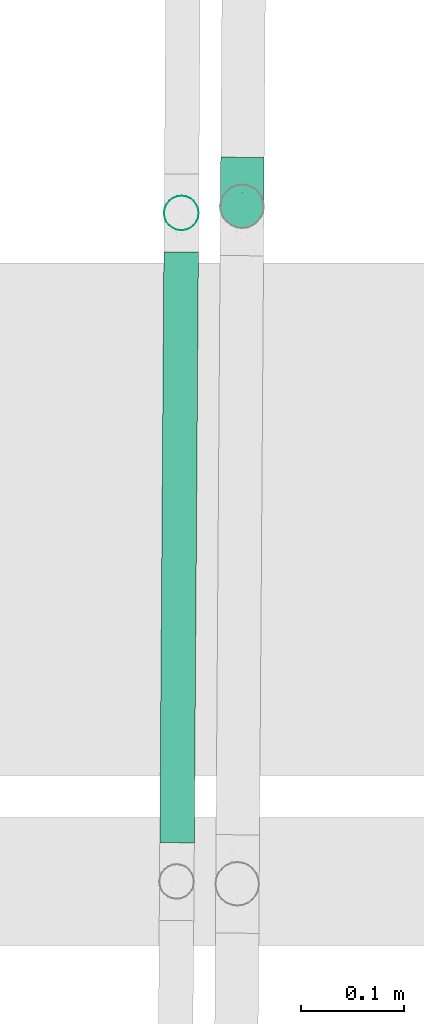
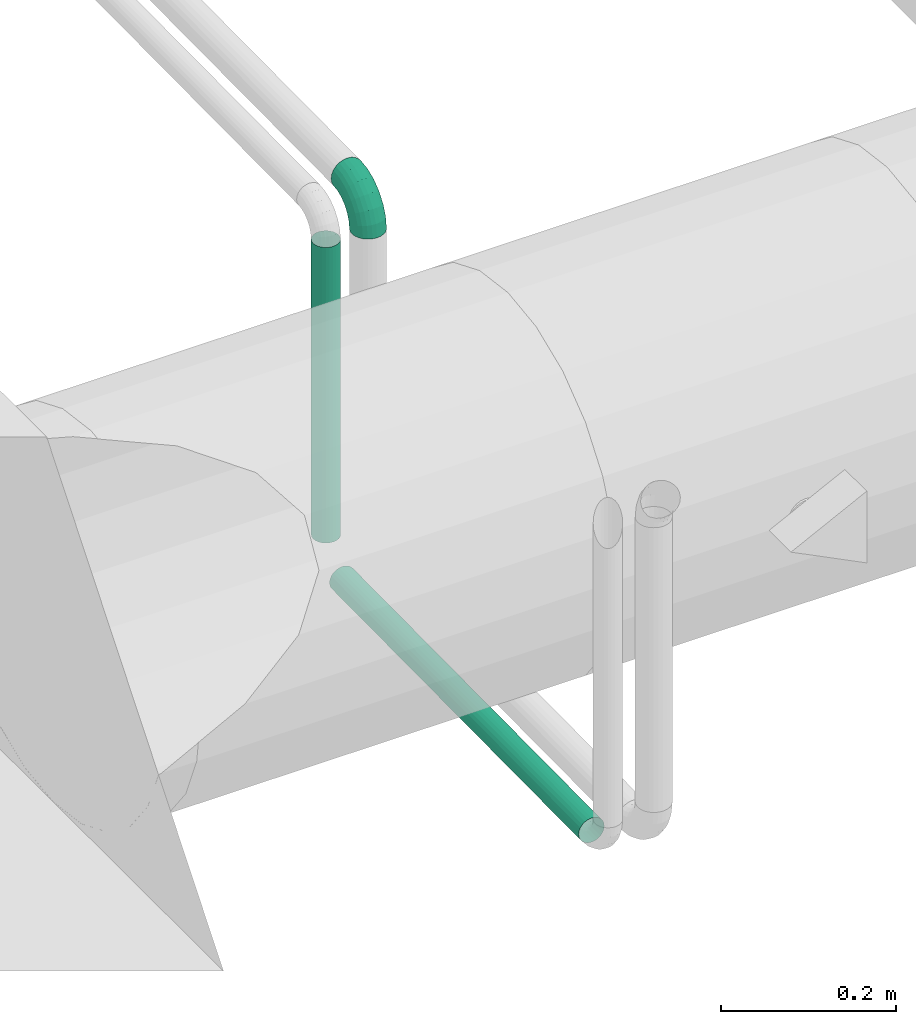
# One storey, part 315 of 374: 3 flow segments.
"""IFC2X3 building model written with IfcOpenShell, lengths in metres."""

from ifc_helpers import new_model, si_unit, direction, origin, place, context, subcontext, project, spatial, open_shell, surface_model, source, transform, mapped, element, save


model = new_model("IFC2X3")

# Units and contexts
model_context = context("Model", 3, precision=1e-05, world=origin(), true_north=direction((-0.4480736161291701, 0.8939966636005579)))
body_context = subcontext(model_context, "Body", "Model", "MODEL_VIEW")
ifc_project = project(units=[si_unit("LENGTHUNIT", "METRE"), si_unit("AREAUNIT", "SQUARE_METRE"), si_unit("VOLUMEUNIT", "CUBIC_METRE"), si_unit("PLANEANGLEUNIT", "RADIAN"), si_unit("THERMODYNAMICTEMPERATUREUNIT", "KELVIN"), si_unit("MASSUNIT", "GRAM", prefix="KILO"), si_unit("TIMEUNIT", "SECOND")], contexts=[model_context])

# Site, building, storey
site_placement = place(None, origin())
site = spatial("IfcSite", under=ifc_project, at=site_placement, Name="Site 1", CompositionType="ELEMENT")
building_placement = place(site_placement, origin())
building = spatial("IfcBuilding", under=site, at=building_placement, Name="Undefined", CompositionType="ELEMENT")
storey_placement = place(building_placement, origin())
storey = spatial("IfcBuildingStorey", under=building, at=storey_placement, Name="Rez de chauss\x8ee", CompositionType="ELEMENT", Elevation=0.0)

# Flow segments
shared_shape_1 = source(origin(), body_context, "Body", "SurfaceModel", [
    surface_model("IfcFaceBasedSurfaceModel", [(0.0, 0.004398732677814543, 0.0), (0.0, 0.0, 0.0), (0.4121860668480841, 3.552713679e-15, 0.0), (0.4121860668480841, 0.0043987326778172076, 0.0), (0.0, -0.004248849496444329, -0.00113847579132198), (0.4121860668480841, -0.0042488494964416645, -0.0011384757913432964), (0.0, -0.008058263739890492, -0.003337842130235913), (0.4121860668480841, -0.008058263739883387, -0.0033378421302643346), (0.0, -0.01116863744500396, -0.0064482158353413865), (0.4121860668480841, -0.011168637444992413, -0.006448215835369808), (0.0, -0.013368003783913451, -0.010257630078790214), (0.4121860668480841, -0.013368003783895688, -0.010257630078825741), (0.0, -0.014506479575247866, -0.014506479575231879), (0.4121860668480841, -0.014506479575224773, -0.014506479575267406), (0.0, -0.01450647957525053, -0.01890521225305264), (0.4121860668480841, -0.014506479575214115, -0.018905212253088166), (0.0, -0.013368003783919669, -0.023154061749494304), (0.4121860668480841, -0.013368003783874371, -0.02315406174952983), (0.0, -0.011168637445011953, -0.02696347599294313), (0.4121860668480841, -0.011168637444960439, -0.026963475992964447), (0.0, -0.008058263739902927, -0.03007384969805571), (0.4121860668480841, -0.00805826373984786, -0.03007384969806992), (0.0, -0.004248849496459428, -0.03227321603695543), (0.4121860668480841, -0.004248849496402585, -0.03227321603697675), (0.0, -1.5099033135e-14, -0.03341169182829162), (0.4121860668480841, 4.6185277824e-14, -0.033411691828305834), (0.0, 0.00439873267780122, -0.03341169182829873), (0.4121860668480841, 0.00439873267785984, -0.033411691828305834), (0.0, 0.008647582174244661, -0.03227321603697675), (0.4121860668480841, 0.008647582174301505, -0.03227321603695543), (0.0, 0.012456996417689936, -0.030073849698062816), (0.4121860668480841, 0.012456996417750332, -0.0300738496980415), (0.0, 0.01556737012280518, -0.026963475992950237), (0.4121860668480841, 0.015567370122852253, -0.02696347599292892), (0.0, 0.017766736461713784, -0.023154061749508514), (0.4121860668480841, 0.017766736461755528, -0.023154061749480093), (0.0, 0.018905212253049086, -0.01890521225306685), (0.4121860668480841, 0.018905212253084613, -0.018905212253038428), (0.0, 0.018905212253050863, -0.01450647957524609), (0.4121860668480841, 0.018905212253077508, -0.014506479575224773), (0.0, 0.01776673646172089, -0.01025763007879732), (0.4121860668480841, 0.017766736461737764, -0.010257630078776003), (0.0, 0.015567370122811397, -0.006448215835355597), (0.4121860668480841, 0.015567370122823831, -0.006448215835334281), (0.0, 0.012456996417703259, -0.0033378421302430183), (0.4121860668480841, 0.012456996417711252, -0.003337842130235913), (0.0, 0.00864758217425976, -0.0011384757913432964), (0.4121860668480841, 0.008647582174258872, -0.0011384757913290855)], [open_shell([[[0, 1, 2, 3]], [[1, 4, 5, 2]], [[4, 6, 7, 5]], [[6, 8, 9, 7]], [[8, 10, 11, 9]], [[10, 12, 13, 11]], [[12, 14, 15, 13]], [[14, 16, 17, 15]], [[16, 18, 19, 17]], [[18, 20, 21, 19]], [[20, 22, 23, 21]], [[22, 24, 25, 23]], [[24, 26, 27, 25]], [[26, 28, 29, 27]], [[28, 30, 31, 29]], [[30, 32, 33, 31]], [[32, 34, 35, 33]], [[34, 36, 37, 35]], [[36, 38, 39, 37]], [[38, 40, 41, 39]], [[40, 42, 43, 41]], [[42, 44, 45, 43]], [[44, 46, 47, 45]], [[46, 0, 3, 47]]])]),
])
flow_segment_1_placement = place(storey_placement, origin())
element("IfcFlowSegment", 1, at=flow_segment_1_placement, inside=storey, Name="Tube acier d'après DIN 2448", ObjectType="Tube acier d'après DIN 2448", context=body_context, shape_type="MappedRepresentation", body=[
    mapped(shared_shape_1, transform((52.88358082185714, 18.00864074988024, 3.9671404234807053), x_axis=(0.0, 0.0, -1.0), y_axis=(0.1374445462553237, 0.9905094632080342, 0.0), z_axis=(0.9905094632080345, -0.13744454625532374, 0.0))),
])
shared_shape_2 = source(origin(), body_context, "Body", "SurfaceModel", [
    surface_model("IfcFaceBasedSurfaceModel", [(0.0, 0.004398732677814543, 0.0), (0.0, 0.0, 0.0), (0.5762514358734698, 4.4408921e-16, 0.0), (0.5762514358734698, 0.004398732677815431, 0.0), (0.0, -0.004248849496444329, -0.00113847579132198), (0.5762514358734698, -0.004248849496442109, -0.001138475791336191), (0.0, -0.008058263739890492, -0.003337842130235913), (0.5762514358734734, -0.00805826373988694, -0.0033378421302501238), (0.0, -0.01116863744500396, -0.0064482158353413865), (0.5762514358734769, -0.011168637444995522, -0.006448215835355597), (0.0, -0.013368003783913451, -0.010257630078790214), (0.5762514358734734, -0.013368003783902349, -0.010257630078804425), (0.0, -0.014506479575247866, -0.014506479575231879), (0.5762514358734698, -0.0145064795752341, -0.01450647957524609), (0.0, -0.01450647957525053, -0.01890521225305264), (0.5762514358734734, -0.014506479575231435, -0.018905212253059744), (0.0, -0.013368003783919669, -0.023154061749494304), (0.5762514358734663, -0.013368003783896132, -0.02315406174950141), (0.0, -0.011168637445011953, -0.02696347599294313), (0.5762514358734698, -0.011168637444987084, -0.026963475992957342), (0.0, -0.008058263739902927, -0.03007384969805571), (0.5762514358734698, -0.008058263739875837, -0.03007384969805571), (0.0, -0.004248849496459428, -0.03227321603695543), (0.5762514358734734, -0.004248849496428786, -0.03227321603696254), (0.0, -1.5099033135e-14, -0.03341169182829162), (0.5762514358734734, 1.5099033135e-14, -0.03341169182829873), (0.0, 0.00439873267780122, -0.03341169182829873), (0.5762514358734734, 0.004398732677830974, -0.03341169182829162), (0.0, 0.008647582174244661, -0.03227321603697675), (0.5762514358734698, 0.008647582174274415, -0.03227321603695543), (0.0, 0.012456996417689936, -0.030073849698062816), (0.5762514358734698, 0.012456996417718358, -0.03007384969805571), (0.0, 0.01556737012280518, -0.026963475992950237), (0.5762514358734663, 0.015567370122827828, -0.02696347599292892), (0.0, 0.017766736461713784, -0.023154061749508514), (0.5762514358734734, 0.017766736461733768, -0.023154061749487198), (0.0, 0.018905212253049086, -0.01890521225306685), (0.5762514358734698, 0.018905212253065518, -0.01890521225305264), (0.0, 0.018905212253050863, -0.01450647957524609), (0.5762514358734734, 0.018905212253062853, -0.014506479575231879), (0.0, 0.01776673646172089, -0.01025763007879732), (0.5762514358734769, 0.01776673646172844, -0.010257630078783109), (0.0, 0.015567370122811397, -0.006448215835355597), (0.5762514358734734, 0.015567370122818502, -0.006448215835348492), (0.0, 0.012456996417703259, -0.0033378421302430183), (0.5762514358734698, 0.012456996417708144, -0.003337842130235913), (0.0, 0.00864758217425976, -0.0011384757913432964), (0.5762514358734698, 0.008647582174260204, -0.0011384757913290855)], [open_shell([[[0, 1, 2, 3]], [[1, 4, 5, 2]], [[4, 6, 7, 5]], [[6, 8, 9, 7]], [[8, 10, 11, 9]], [[10, 12, 13, 11]], [[12, 14, 15, 13]], [[14, 16, 17, 15]], [[16, 18, 19, 17]], [[18, 20, 21, 19]], [[20, 22, 23, 21]], [[22, 24, 25, 23]], [[24, 26, 27, 25]], [[26, 28, 29, 27]], [[28, 30, 31, 29]], [[30, 32, 33, 31]], [[32, 34, 35, 33]], [[34, 36, 37, 35]], [[36, 38, 39, 37]], [[38, 40, 41, 39]], [[40, 42, 43, 41]], [[42, 44, 45, 43]], [[44, 46, 47, 45]], [[46, 0, 3, 47]]])]),
])
flow_segment_2_placement = place(storey_placement, origin())
element("IfcFlowSegment", 2, at=flow_segment_2_placement, inside=storey, Name="Tube acier d'après DIN 2448", ObjectType="Tube acier d'après DIN 2448", context=body_context, shape_type="MappedRepresentation", body=[
    mapped(shared_shape_2, transform((52.85079507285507, 17.97522992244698, 3.512593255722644), x_axis=(-0.00698126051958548, -0.9999756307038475, 0.0), y_axis=(-0.13052301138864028, 0.000911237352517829, 0.9914448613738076), z_axis=(-0.991420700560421, 0.0069215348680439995, -0.13052619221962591))),
])
shared_shape_3 = source(origin(), body_context, "Body", "SurfaceModel", [
    surface_model("IfcFaceBasedSurfaceModel", [(0.01806482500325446, 7.105427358e-15, 0.0), (0.017970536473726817, 0.005533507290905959, 0.0), (9.428852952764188e-05, 0.005533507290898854, 0.0), (0.0, 0.0, 0.0), (-0.017172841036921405, 0.00613233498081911, -0.004587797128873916), (-0.01744928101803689, 0.0006051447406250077, -0.004636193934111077), (-0.03265412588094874, 0.007289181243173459, -0.013450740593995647), (-0.0330938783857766, 0.0017741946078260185, -0.013592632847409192), (-0.045294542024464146, 0.008925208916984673, -0.02598483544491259), (-0.045867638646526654, 0.0034274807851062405, -0.02625895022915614), (-0.054232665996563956, 0.010928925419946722, -0.041335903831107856), (-0.05490005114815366, 0.005452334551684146, -0.04177195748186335), (-0.05885937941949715, 0.013163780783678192, -0.05845779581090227), (-0.059575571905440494, 0.007710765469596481, -0.05907446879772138), (0.01769409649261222, 0.010875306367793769, -0.0014203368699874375), (0.00037072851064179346, 0.010875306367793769, -0.0014203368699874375), (-0.016362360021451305, 0.011455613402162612, -0.005866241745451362), (-0.03136483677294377, 0.012576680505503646, -0.014455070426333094), (-0.04361430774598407, 0.014162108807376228, -0.026601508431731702), (-0.05227599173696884, 0.016103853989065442, -0.0414777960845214), (-0.05675960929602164, 0.018269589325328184, -0.05807013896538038), (0.017254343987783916, 0.015661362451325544, -0.0041642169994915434), (0.0008104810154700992, 0.015661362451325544, -0.004164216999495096), (-0.01507307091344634, 0.016212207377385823, -0.008384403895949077), (-0.029313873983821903, 0.01727635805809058, -0.016537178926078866), (-0.04094144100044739, 0.01878129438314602, -0.02806694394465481), (-0.049163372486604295, 0.02062445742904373, -0.042187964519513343), (-0.05341935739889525, 0.02268023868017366, -0.05793791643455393), (0.016681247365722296, 0.01956551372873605, -0.008044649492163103), (0.001383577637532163, 0.01956551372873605, -0.008044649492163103), (-0.01339283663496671, 0.020077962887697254, -0.011970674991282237), (-0.026641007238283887, 0.021067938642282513, -0.01955517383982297), (-0.03745809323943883, 0.02246797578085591, -0.03028127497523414), (-0.04510692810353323, 0.0241826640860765, -0.04341801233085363), (-0.04906625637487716, 0.026095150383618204, -0.05807013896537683), (0.016013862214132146, 0.022321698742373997, -0.012797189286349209), (0.0020509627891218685, 0.022321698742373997, -0.012797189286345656), (-0.011436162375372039, 0.02278943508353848, -0.016380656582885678), (-0.023528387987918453, 0.02369303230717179, -0.023303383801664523), (-0.03340164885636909, 0.024970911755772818, -0.03309359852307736), (-0.040383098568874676, 0.026535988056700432, -0.04508411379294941), (-0.04399696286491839, 0.028281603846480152, -0.05845779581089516), (0.015297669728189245, 0.023742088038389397, -0.018097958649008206), (0.00276715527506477, 0.023742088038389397, -0.018097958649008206), (-0.009336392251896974, 0.024161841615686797, -0.021313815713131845), (-0.02018813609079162, 0.02497274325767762, -0.0275263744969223), (-0.029048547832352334, 0.02611953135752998, -0.03631225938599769), (-0.03531380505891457, 0.027524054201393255, -0.04707272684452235), (-0.0385569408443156, 0.02909059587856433, -0.05907446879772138), (0.014581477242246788, 0.023729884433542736, -0.02358571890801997), (0.0034833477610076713, 0.023729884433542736, -0.02358571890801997), (-0.007236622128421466, 0.024101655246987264, -0.026433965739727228), (-0.016847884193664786, 0.02481986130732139, -0.03193635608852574), (-0.02469544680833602, 0.02583555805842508, -0.03971791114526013), (-0.0302445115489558, 0.027079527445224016, -0.04924833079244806), (-0.03311691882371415, 0.02846699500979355, -0.059878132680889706), (0.013914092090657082, 0.02228591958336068, -0.02888648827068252), (0.004150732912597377, 0.022285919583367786, -0.028886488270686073), (-0.005279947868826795, 0.022612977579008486, -0.031392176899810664), (-0.013735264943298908, 0.023244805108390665, -0.03623279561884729), (-0.020639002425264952, 0.02413834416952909, -0.04307846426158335), (-0.025520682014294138, 0.025232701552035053, -0.051462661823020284), (-0.028047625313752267, 0.026453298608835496, -0.060814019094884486), (0.013340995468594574, 0.01950859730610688, -0.03363902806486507), (0.0047238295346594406, 0.01950859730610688, -0.033639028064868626), (-0.0035997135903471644, 0.019797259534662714, -0.035850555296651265), (-0.011062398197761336, 0.0203549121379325, -0.04012289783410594), (-0.017155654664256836, 0.021143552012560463, -0.04616490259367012), (-0.02146423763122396, 0.022109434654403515, -0.05356481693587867), (-0.02369452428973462, 0.023186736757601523, -0.06181834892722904), (0.012901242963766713, 0.015587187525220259, -0.037519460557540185), (0.005163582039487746, 0.015587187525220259, -0.03751946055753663), (-0.0023104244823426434, 0.015846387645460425, -0.03950526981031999), (-0.009011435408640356, 0.016347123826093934, -0.043341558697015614), (-0.01448278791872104, 0.017055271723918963, -0.048766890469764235), (-0.018351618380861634, 0.017922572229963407, -0.05541153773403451), (-0.02035427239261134, 0.018889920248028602, -0.06282267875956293), (0.012624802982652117, 0.010788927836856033, -0.040263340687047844), (0.005440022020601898, 0.010788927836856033, -0.0402633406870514), (-0.0014999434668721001, 0.011029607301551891, -0.04210725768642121), (-0.007722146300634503, 0.01149456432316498, -0.045669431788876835), (-0.012802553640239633, 0.012152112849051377, -0.05070710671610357), (-0.0163949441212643, 0.012957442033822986, -0.056876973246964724), (-0.018254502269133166, 0.013855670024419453, -0.06375856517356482), (0.012530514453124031, 0.005440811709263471, -0.041683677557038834), (0.005534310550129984, 0.0054408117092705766, -0.041683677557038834), (-0.0012235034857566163, 0.005675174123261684, -0.04347919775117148), (-0.007282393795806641, 0.006127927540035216, -0.046947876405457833), (-0.012229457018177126, 0.0067682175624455, -0.05185332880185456), (-0.015727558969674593, 0.007552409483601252, -0.05786125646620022), (-0.01753830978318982, 0.008427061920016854, -0.0645622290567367), (0.012624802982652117, -9.269558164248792e-05, -0.04168367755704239), (0.005440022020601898, -9.269558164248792e-05, -0.04168367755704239), (-0.0014999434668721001, 0.00014798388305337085, -0.0435275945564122), (-0.007722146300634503, 0.0006129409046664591, -0.047089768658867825), (-0.012802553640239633, 0.001270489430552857, -0.05212744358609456), (-0.0163949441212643, 0.002075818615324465, -0.058297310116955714), (-0.018254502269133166, 0.0029740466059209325, -0.06517890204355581), (0.012901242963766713, -0.005434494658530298, -0.0402633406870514), (0.005163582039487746, -0.005434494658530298, -0.040263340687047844), (-0.0023104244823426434, -0.005175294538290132, -0.0422491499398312), (-0.009011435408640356, -0.004674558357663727, -0.046085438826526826), (-0.01448278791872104, -0.0039664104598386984, -0.051510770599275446), (-0.018351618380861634, -0.0030991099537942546, -0.05815541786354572), (-0.02035427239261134, -0.0021317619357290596, -0.06556655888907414), (0.013340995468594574, -0.010220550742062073, -0.03751946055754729), (0.0047238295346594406, -0.010220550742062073, -0.03751946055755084), (-0.0035997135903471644, -0.009931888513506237, -0.03973098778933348), (-0.011062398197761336, -0.009374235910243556, -0.04400333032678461), (-0.017155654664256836, -0.00858559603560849, -0.05004533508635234), (-0.02146423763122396, -0.007619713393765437, -0.057445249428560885), (-0.02369452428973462, -0.006542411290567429, -0.06569878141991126), (0.013914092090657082, -0.01412470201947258, -0.03363902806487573), (0.004150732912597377, -0.014124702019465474, -0.033639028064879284), (-0.005279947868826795, -0.013797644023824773, -0.036144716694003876), (-0.013735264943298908, -0.013165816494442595, -0.0409853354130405), (-0.020639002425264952, -0.012272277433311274, -0.04783100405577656), (-0.025520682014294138, -0.011177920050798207, -0.05621520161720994), (-0.028047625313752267, -0.009957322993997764, -0.0655665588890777), (0.014581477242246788, -0.01688088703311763, -0.028886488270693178), (0.0034833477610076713, -0.01688088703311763, -0.028886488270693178), (-0.007236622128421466, -0.016509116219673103, -0.031734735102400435), (-0.016847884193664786, -0.015790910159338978, -0.03723712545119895), (-0.02469544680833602, -0.014775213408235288, -0.04501868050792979), (-0.0302445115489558, -0.01353124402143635, -0.054549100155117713), (-0.03311691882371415, -0.012143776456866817, -0.06517890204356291), (0.015297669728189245, -0.01830127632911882, -0.02358571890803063), (0.00276715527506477, -0.01830127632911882, -0.02358571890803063), (-0.009336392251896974, -0.01788152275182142, -0.026801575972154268), (-0.02018813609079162, -0.017070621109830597, -0.033014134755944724), (-0.029048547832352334, -0.01592383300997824, -0.04180001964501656), (-0.03531380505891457, -0.014519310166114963, -0.05256048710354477), (-0.0385569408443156, -0.012952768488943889, -0.06456222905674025), (0.016013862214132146, -0.01828907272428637, -0.018097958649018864), (0.0020509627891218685, -0.01828907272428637, -0.018097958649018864), (-0.011436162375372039, -0.01782133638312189, -0.021681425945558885), (-0.023528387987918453, -0.016917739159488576, -0.02860415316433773), (-0.03340164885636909, -0.01563985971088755, -0.038394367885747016), (-0.040383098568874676, -0.014074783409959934, -0.05038488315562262), (-0.04399696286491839, -0.012329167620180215, -0.06375856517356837), (0.016681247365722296, -0.01684510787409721, -0.012797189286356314), (0.001383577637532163, -0.01684510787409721, -0.012797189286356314), (-0.01339283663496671, -0.016332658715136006, -0.01672321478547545), (-0.026641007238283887, -0.015342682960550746, -0.02430771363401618), (-0.03745809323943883, -0.01394264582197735, -0.03503381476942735), (-0.04510692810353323, -0.01222795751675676, -0.04817055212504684), (-0.04906625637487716, -0.010315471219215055, -0.06282267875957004), (0.017254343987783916, -0.014067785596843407, -0.008044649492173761), (0.0008104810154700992, -0.014067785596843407, -0.008044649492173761), (-0.01507307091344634, -0.013516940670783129, -0.012264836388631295), (-0.029313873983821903, -0.012452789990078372, -0.020417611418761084), (-0.04094144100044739, -0.010947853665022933, -0.03194737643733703), (-0.049163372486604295, -0.009104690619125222, -0.04606839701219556), (-0.05341935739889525, -0.007048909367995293, -0.06181834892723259), (0.01769409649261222, -0.010146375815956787, -0.004164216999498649), (0.00037072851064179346, -0.010146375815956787, -0.004164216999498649), (-0.016362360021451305, -0.009566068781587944, -0.008610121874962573), (-0.03136483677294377, -0.008445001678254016, -0.017198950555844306), (-0.04361430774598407, -0.006859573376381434, -0.029345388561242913), (-0.05227599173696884, -0.00491782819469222, -0.04422167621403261), (-0.05675960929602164, -0.002752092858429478, -0.060814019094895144), (0.017970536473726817, -0.0053481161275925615, -0.0014203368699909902), (9.428852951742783e-05, -0.0053481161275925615, -0.0014203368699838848), (-0.017172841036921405, -0.004749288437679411, -0.006008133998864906), (-0.03265412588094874, -0.0035924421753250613, -0.014871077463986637), (-0.045294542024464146, -0.001956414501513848, -0.02740517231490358), (-0.05423266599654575, 4.730200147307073e-05, -0.042756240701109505), (-0.05885937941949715, 0.002282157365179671, -0.05987813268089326)], [open_shell([[[0, 1, 2, 3]], [[3, 2, 4, 5]], [[5, 4, 6, 7]], [[7, 6, 8, 9]], [[9, 8, 10, 11]], [[11, 10, 12, 13]], [[1, 14, 15, 2]], [[2, 15, 16, 4]], [[4, 16, 17, 6]], [[6, 17, 18, 8]], [[8, 18, 19, 10]], [[10, 19, 20, 12]], [[14, 21, 22, 15]], [[15, 22, 23, 16]], [[16, 23, 24, 17]], [[17, 24, 25, 18]], [[18, 25, 26, 19]], [[19, 26, 27, 20]], [[21, 28, 29, 22]], [[22, 29, 30, 23]], [[23, 30, 31, 24]], [[24, 31, 32, 25]], [[25, 32, 33, 26]], [[26, 33, 34, 27]], [[28, 35, 36, 29]], [[29, 36, 37, 30]], [[30, 37, 38, 31]], [[31, 38, 39, 32]], [[32, 39, 40, 33]], [[33, 40, 41, 34]], [[35, 42, 43, 36]], [[36, 43, 44, 37]], [[37, 44, 45, 38]], [[38, 45, 46, 39]], [[39, 46, 47, 40]], [[40, 47, 48, 41]], [[42, 49, 50, 43]], [[43, 50, 51, 44]], [[44, 51, 52, 45]], [[45, 52, 53, 46]], [[46, 53, 54, 47]], [[47, 54, 55, 48]], [[49, 56, 57, 50]], [[50, 57, 58, 51]], [[51, 58, 59, 52]], [[52, 59, 60, 53]], [[53, 60, 61, 54]], [[54, 61, 62, 55]], [[56, 63, 64, 57]], [[57, 64, 65, 58]], [[58, 65, 66, 59]], [[59, 66, 67, 60]], [[60, 67, 68, 61]], [[61, 68, 69, 62]], [[63, 70, 71, 64]], [[64, 71, 72, 65]], [[65, 72, 73, 66]], [[66, 73, 74, 67]], [[67, 74, 75, 68]], [[68, 75, 76, 69]], [[70, 77, 78, 71]], [[71, 78, 79, 72]], [[72, 79, 80, 73]], [[73, 80, 81, 74]], [[74, 81, 82, 75]], [[75, 82, 83, 76]], [[77, 84, 85, 78]], [[78, 85, 86, 79]], [[79, 86, 87, 80]], [[80, 87, 88, 81]], [[81, 88, 89, 82]], [[82, 89, 90, 83]], [[84, 91, 92, 85]], [[85, 92, 93, 86]], [[86, 93, 94, 87]], [[87, 94, 95, 88]], [[88, 95, 96, 89]], [[89, 96, 97, 90]], [[91, 98, 99, 92]], [[92, 99, 100, 93]], [[93, 100, 101, 94]], [[94, 101, 102, 95]], [[95, 102, 103, 96]], [[96, 103, 104, 97]], [[98, 105, 106, 99]], [[99, 106, 107, 100]], [[100, 107, 108, 101]], [[101, 108, 109, 102]], [[102, 109, 110, 103]], [[103, 110, 111, 104]], [[105, 112, 113, 106]], [[106, 113, 114, 107]], [[107, 114, 115, 108]], [[108, 115, 116, 109]], [[109, 116, 117, 110]], [[110, 117, 118, 111]], [[112, 119, 120, 113]], [[113, 120, 121, 114]], [[114, 121, 122, 115]], [[115, 122, 123, 116]], [[116, 123, 124, 117]], [[117, 124, 125, 118]], [[119, 126, 127, 120]], [[120, 127, 128, 121]], [[121, 128, 129, 122]], [[122, 129, 130, 123]], [[123, 130, 131, 124]], [[124, 131, 132, 125]], [[126, 133, 134, 127]], [[127, 134, 135, 128]], [[128, 135, 136, 129]], [[129, 136, 137, 130]], [[130, 137, 138, 131]], [[131, 138, 139, 132]], [[133, 140, 141, 134]], [[134, 141, 142, 135]], [[135, 142, 143, 136]], [[136, 143, 144, 137]], [[137, 144, 145, 138]], [[138, 145, 146, 139]], [[140, 147, 148, 141]], [[141, 148, 149, 142]], [[142, 149, 150, 143]], [[143, 150, 151, 144]], [[144, 151, 152, 145]], [[145, 152, 153, 146]], [[147, 154, 155, 148]], [[148, 155, 156, 149]], [[149, 156, 157, 150]], [[150, 157, 158, 151]], [[151, 158, 159, 152]], [[152, 159, 160, 153]], [[154, 161, 162, 155]], [[155, 162, 163, 156]], [[156, 163, 164, 157]], [[157, 164, 165, 158]], [[158, 165, 166, 159]], [[159, 166, 167, 160]], [[161, 0, 3, 162]], [[162, 3, 5, 163]], [[163, 5, 7, 164]], [[164, 7, 9, 165]], [[165, 9, 11, 166]], [[166, 11, 13, 167]]])]),
])
flow_segment_3_placement = place(storey_placement, origin())
element("IfcFlowSegment", 3, at=flow_segment_3_placement, inside=storey, Name="Tube coudé", ObjectType="Tube coudé", context=body_context, shape_type="MappedRepresentation", body=[
    mapped(shared_shape_3, transform((52.92679220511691, 18.049633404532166, 4.0239824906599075), x_axis=(0.006921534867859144, 0.9914207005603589, 0.13052619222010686), y_axis=(-0.9914466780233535, 0.023815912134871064, -0.12832103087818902), z_axis=(-0.13032872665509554, -0.12852158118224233, 0.9831056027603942))),
])

save(model, "model.ifc")
